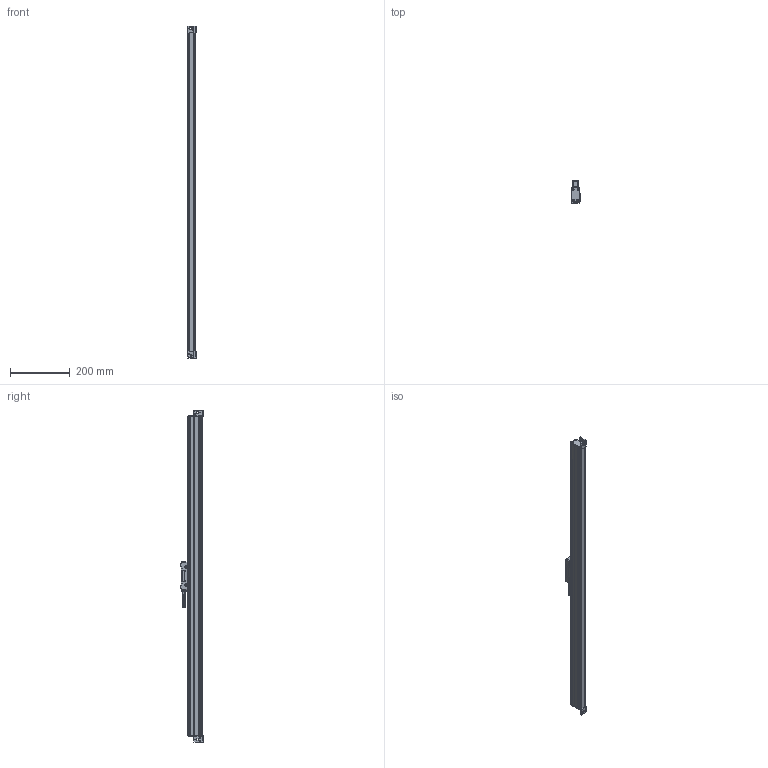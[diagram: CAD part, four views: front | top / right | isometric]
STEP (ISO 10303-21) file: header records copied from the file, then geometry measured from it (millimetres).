
FILE_DESCRIPTION (( 'STEP AP214' ), '1' );
FILE_NAME ('MLC310x0950.STEP', '2021-05-08T11:52:24', ( '' ), ( '' ), 'SwSTEP 2.0', 'SolidWorks 2014', '' );
FILE_SCHEMA (( 'AUTOMOTIVE_DESIGN' ));
Length unit declared in the file: millimetre
Products named in the file (1): MLC310x0950
Bounding box: 27 x 75.15 x 1114 mm (x, y, z)
Surface area: 196336.9 mm2 (no closed solid volume)
Topology: 0 solids, 20 shells, 389 faces, 1328 edges, 945 vertices
Faces by surface type: plane 154, cylinder 137, cone 71, bspline 21, torus 6
Entity records: 28218 total; most frequent: CARTESIAN_POINT 12775, DIRECTION 2293, ORIENTED_EDGE 2047, EDGE_CURVE 1324, VERTEX_POINT 945, AXIS2_PLACEMENT_3D 793, VECTOR 707, LINE 707
